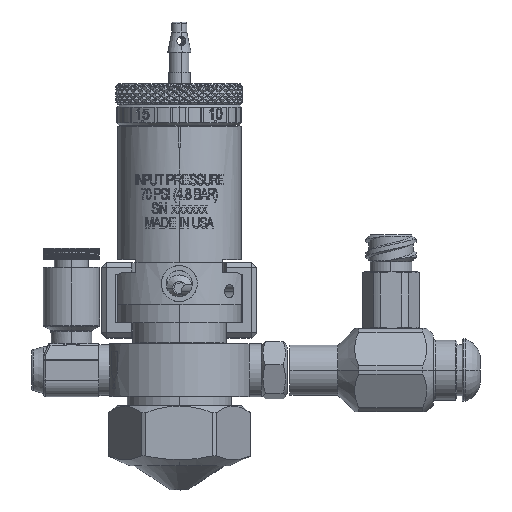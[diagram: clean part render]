
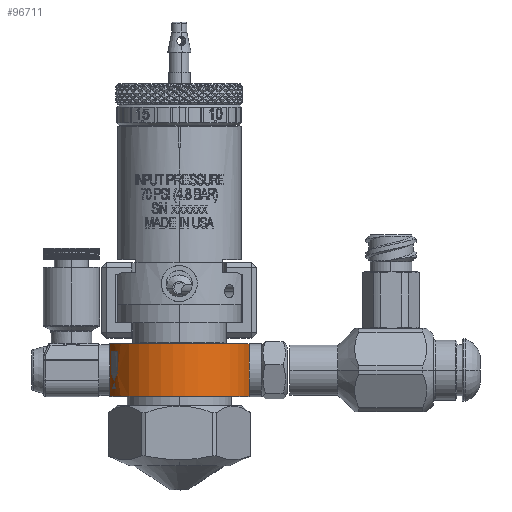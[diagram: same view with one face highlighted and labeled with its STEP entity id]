
A CAD part, top view. The second image highlights one B-rep face of the part: STEP entity #96711.
In plain terms, the highlighted cylindrical face has radius 11.113 mm (diameter 22.225 mm), a partial arc.
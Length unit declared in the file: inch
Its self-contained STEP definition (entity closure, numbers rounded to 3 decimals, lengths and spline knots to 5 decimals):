
#356 = VERTEX_POINT ( 'NONE', #7344 ) ;
#2210 = ORIENTED_EDGE ( 'NONE', *, *, #14162, .T. ) ;
#3867 = LINE ( 'NONE', #8710, #40412 ) ;
#5785 = EDGE_CURVE ( 'NONE', #112942, #11782, #45217, .T. ) ;
#7344 = CARTESIAN_POINT ( 'NONE',  ( -0.37258, 0.69969, 0.22932 ) ) ;
#7518 = CARTESIAN_POINT ( 'NONE',  ( -0.38207, 0.605, 0.21315 ) ) ;
#8710 = CARTESIAN_POINT ( 'NONE',  ( 0.4175, 1.84666, 0.13077 ) ) ;
#9836 = AXIS2_PLACEMENT_3D ( 'NONE', #132789, #90667, #90209 ) ;
#11782 = VERTEX_POINT ( 'NONE', #45606 ) ;
#14162 = EDGE_CURVE ( 'NONE', #96015, #86816, #96758, .T. ) ;
#14672 = AXIS2_PLACEMENT_3D ( 'NONE', #53353, #137233, #73734 ) ;
#14950 = EDGE_CURVE ( 'NONE', #99069, #356, #48428, .T. ) ;
#15847 = ORIENTED_EDGE ( 'NONE', *, *, #14950, .F. ) ;
#20263 = CARTESIAN_POINT ( 'NONE',  ( 0., 0.875, 0. ) ) ;
#21193 = ORIENTED_EDGE ( 'NONE', *, *, #114006, .F. ) ;
#21358 = ORIENTED_EDGE ( 'NONE', *, *, #114168, .F. ) ;
#25453 = CARTESIAN_POINT ( 'NONE',  ( -0.39891, 0.605, 0.17966 ) ) ;
#25640 = CARTESIAN_POINT ( 'NONE',  ( -0.38207, 0.605, 0.21315 ) ) ;
#26367 = B_SPLINE_CURVE_WITH_KNOTS ( 'NONE', 3,
 ( #87245, #89089, #35171, #25453 ),
 .UNSPECIFIED., .F., .F.,
 ( 4, 4 ),
 ( 0., 1. ),
 .UNSPECIFIED. ) ;
#27916 = B_SPLINE_CURVE_WITH_KNOTS ( 'NONE', 3,
 ( #73631, #105174, #50999, #51455 ),
 .UNSPECIFIED., .F., .F.,
 ( 4, 4 ),
 ( 0., 1. ),
 .UNSPECIFIED. ) ;
#30356 = ORIENTED_EDGE ( 'NONE', *, *, #80347, .F. ) ;
#33289 = CARTESIAN_POINT ( 'NONE',  ( -0.4175, 0.875, 0.13077 ) ) ;
#34830 = FACE_BOUND ( 'NONE', #137551, .T. ) ;
#35171 = CARTESIAN_POINT ( 'NONE',  ( -0.39634, 0.61583, 0.18536 ) ) ;
#35584 = DIRECTION ( 'NONE',  ( -0.852, 0., 0.524 ) ) ;
#36067 = EDGE_CURVE ( 'NONE', #47991, #86816, #3867, .T. ) ;
#37720 = DIRECTION ( 'NONE',  ( 0., 1., 0. ) ) ;
#37789 = EDGE_CURVE ( 'NONE', #73617, #87099, #49306, .T. ) ;
#37913 = ORIENTED_EDGE ( 'NONE', *, *, #37789, .F. ) ;
#39820 = DIRECTION ( 'NONE',  ( 0., -1., 0. ) ) ;
#40412 = VECTOR ( 'NONE', #39820, 39.37008 ) ;
#41174 = DIRECTION ( 'NONE',  ( 0., 0., -1. ) ) ;
#41882 = VECTOR ( 'NONE', #119380, 39.37008 ) ;
#45023 = CARTESIAN_POINT ( 'NONE',  ( -0.39891, 0.605, 0.17966 ) ) ;
#45217 = LINE ( 'NONE', #120759, #41882 ) ;
#45606 = CARTESIAN_POINT ( 'NONE',  ( -0.40624, 0.69969, 0.1624 ) ) ;
#46689 = VECTOR ( 'NONE', #136960, 39.37008 ) ;
#47991 = VERTEX_POINT ( 'NONE', #76747 ) ;
#48428 = B_SPLINE_CURVE_WITH_KNOTS ( 'NONE', 3,
 ( #108240, #128609, #76773, #55863 ),
 .UNSPECIFIED., .F., .F.,
 ( 4, 4 ),
 ( 0., 1. ),
 .UNSPECIFIED. ) ;
#49306 = B_SPLINE_CURVE_WITH_KNOTS ( 'NONE', 3,
 ( #7518, #124847, #125299, #83188 ),
 .UNSPECIFIED., .F., .F.,
 ( 4, 4 ),
 ( 0., 1. ),
 .UNSPECIFIED. ) ;
#50999 = CARTESIAN_POINT ( 'NONE',  ( -0.39646, 0.6699, 0.18542 ) ) ;
#51292 = VERTEX_POINT ( 'NONE', #91000 ) ;
#51455 = CARTESIAN_POINT ( 'NONE',  ( -0.39085, 0.655, 0.19658 ) ) ;
#51683 = ORIENTED_EDGE ( 'NONE', *, *, #88677, .F. ) ;
#51932 = ORIENTED_EDGE ( 'NONE', *, *, #96297, .F. ) ;
#53225 = FACE_BOUND ( 'NONE', #103853, .T. ) ;
#53353 = CARTESIAN_POINT ( 'NONE',  ( 0., 1.84666, 0. ) ) ;
#55227 = CARTESIAN_POINT ( 'NONE',  ( 0., 0.83, 0. ) ) ;
#55765 = EDGE_CURVE ( 'NONE', #112942, #51292, #74267, .T. ) ;
#55863 = CARTESIAN_POINT ( 'NONE',  ( -0.37258, 0.69969, 0.22932 ) ) ;
#60800 = CARTESIAN_POINT ( 'NONE',  ( -0.39085, 0.63748, 0.19658 ) ) ;
#63846 = VERTEX_POINT ( 'NONE', #45023 ) ;
#64517 = EDGE_LOOP ( 'NONE', ( #111925, #30356, #51932, #2210 ) ) ;
#69836 = CYLINDRICAL_SURFACE ( 'NONE', #14672, 0.4375 ) ;
#70670 = CARTESIAN_POINT ( 'NONE',  ( 0., 0.605, 0. ) ) ;
#72857 = AXIS2_PLACEMENT_3D ( 'NONE', #20263, #136645, #41174 ) ;
#73030 = CARTESIAN_POINT ( 'NONE',  ( -0.4175, 1.84666, 0.13077 ) ) ;
#73617 = VERTEX_POINT ( 'NONE', #25640 ) ;
#73631 = CARTESIAN_POINT ( 'NONE',  ( -0.40624, 0.69969, 0.1624 ) ) ;
#73734 = DIRECTION ( 'NONE',  ( 0., 0., -1. ) ) ;
#73866 = CIRCLE ( 'NONE', #114117, 0.4375 ) ;
#74267 = CIRCLE ( 'NONE', #106349, 0.4375 ) ;
#76747 = CARTESIAN_POINT ( 'NONE',  ( 0.4175, 0.875, 0.13077 ) ) ;
#76773 = CARTESIAN_POINT ( 'NONE',  ( -0.37913, 0.68479, 0.21868 ) ) ;
#80347 = EDGE_CURVE ( 'NONE', #115825, #47991, #121750, .T. ) ;
#83188 = CARTESIAN_POINT ( 'NONE',  ( -0.39085, 0.63748, 0.19658 ) ) ;
#86816 = VERTEX_POINT ( 'NONE', #132716 ) ;
#87042 = ORIENTED_EDGE ( 'NONE', *, *, #55765, .T. ) ;
#87099 = VERTEX_POINT ( 'NONE', #60800 ) ;
#87245 = CARTESIAN_POINT ( 'NONE',  ( -0.39085, 0.63748, 0.19658 ) ) ;
#88677 = EDGE_CURVE ( 'NONE', #11782, #99069, #27916, .T. ) ;
#89089 = CARTESIAN_POINT ( 'NONE',  ( -0.39366, 0.62665, 0.191 ) ) ;
#90209 = DIRECTION ( 'NONE',  ( 0., 0., -1. ) ) ;
#90667 = DIRECTION ( 'NONE',  ( 0., 1., 0. ) ) ;
#91000 = CARTESIAN_POINT ( 'NONE',  ( -0.37258, 0.83, 0.22932 ) ) ;
#91179 = LINE ( 'NONE', #93395, #92772 ) ;
#92772 = VECTOR ( 'NONE', #137362, 39.37008 ) ;
#93395 = CARTESIAN_POINT ( 'NONE',  ( -0.37258, 0.69969, 0.22932 ) ) ;
#96015 = VERTEX_POINT ( 'NONE', #131571 ) ;
#96297 = EDGE_CURVE ( 'NONE', #96015, #115825, #124602, .T. ) ;
#96711 = ADVANCED_FACE ( 'NONE', ( #34830, #53225, #114591 ), #69836, .T. ) ;
#96758 = CIRCLE ( 'NONE', #9836, 0.4375 ) ;
#99069 = VERTEX_POINT ( 'NONE', #101486 ) ;
#101285 = DIRECTION ( 'NONE',  ( -0.873, 0., 0.487 ) ) ;
#101486 = CARTESIAN_POINT ( 'NONE',  ( -0.39085, 0.655, 0.19658 ) ) ;
#103853 = EDGE_LOOP ( 'NONE', ( #131583, #87042, #21193, #15847, #51683 ) ) ;
#105174 = CARTESIAN_POINT ( 'NONE',  ( -0.4016, 0.68479, 0.17401 ) ) ;
#106349 = AXIS2_PLACEMENT_3D ( 'NONE', #55227, #109389, #35584 ) ;
#108240 = CARTESIAN_POINT ( 'NONE',  ( -0.39085, 0.655, 0.19658 ) ) ;
#109389 = DIRECTION ( 'NONE',  ( 0., 1., 0. ) ) ;
#111925 = ORIENTED_EDGE ( 'NONE', *, *, #36067, .F. ) ;
#112942 = VERTEX_POINT ( 'NONE', #115999 ) ;
#114006 = EDGE_CURVE ( 'NONE', #356, #51292, #91179, .T. ) ;
#114117 = AXIS2_PLACEMENT_3D ( 'NONE', #70670, #37720, #101285 ) ;
#114168 = EDGE_CURVE ( 'NONE', #87099, #63846, #26367, .T. ) ;
#114591 = FACE_OUTER_BOUND ( 'NONE', #64517, .T. ) ;
#115825 = VERTEX_POINT ( 'NONE', #33289 ) ;
#115999 = CARTESIAN_POINT ( 'NONE',  ( -0.40624, 0.83, 0.1624 ) ) ;
#117406 = EDGE_CURVE ( 'NONE', #63846, #73617, #73866, .T. ) ;
#119380 = DIRECTION ( 'NONE',  ( 0., -1., 0. ) ) ;
#120759 = CARTESIAN_POINT ( 'NONE',  ( -0.40624, 0.83, 0.1624 ) ) ;
#121750 = CIRCLE ( 'NONE', #72857, 0.4375 ) ;
#124602 = LINE ( 'NONE', #73030, #46689 ) ;
#124847 = CARTESIAN_POINT ( 'NONE',  ( -0.38511, 0.61583, 0.20769 ) ) ;
#125299 = CARTESIAN_POINT ( 'NONE',  ( -0.38804, 0.62665, 0.20217 ) ) ;
#128608 = ORIENTED_EDGE ( 'NONE', *, *, #117406, .F. ) ;
#128609 = CARTESIAN_POINT ( 'NONE',  ( -0.38523, 0.6699, 0.20775 ) ) ;
#131571 = CARTESIAN_POINT ( 'NONE',  ( -0.4175, 0.56, 0.13077 ) ) ;
#131583 = ORIENTED_EDGE ( 'NONE', *, *, #5785, .F. ) ;
#132716 = CARTESIAN_POINT ( 'NONE',  ( 0.4175, 0.56, 0.13077 ) ) ;
#132789 = CARTESIAN_POINT ( 'NONE',  ( 0., 0.56, 0. ) ) ;
#136645 = DIRECTION ( 'NONE',  ( 0., 1., 0. ) ) ;
#136960 = DIRECTION ( 'NONE',  ( 0., 1., 0. ) ) ;
#137233 = DIRECTION ( 'NONE',  ( 0., 1., 0. ) ) ;
#137362 = DIRECTION ( 'NONE',  ( 0., 1., 0. ) ) ;
#137551 = EDGE_LOOP ( 'NONE', ( #37913, #128608, #21358 ) ) ;
